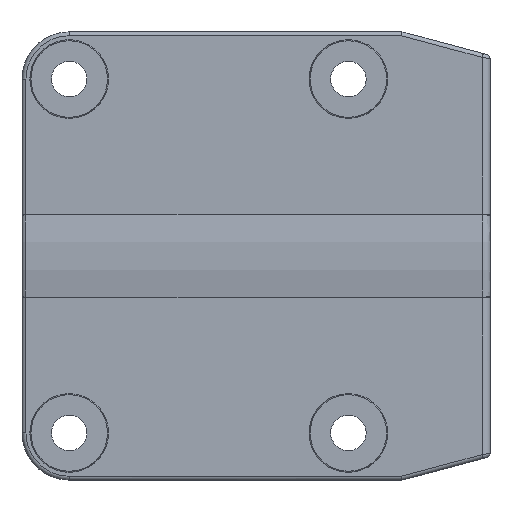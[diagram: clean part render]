
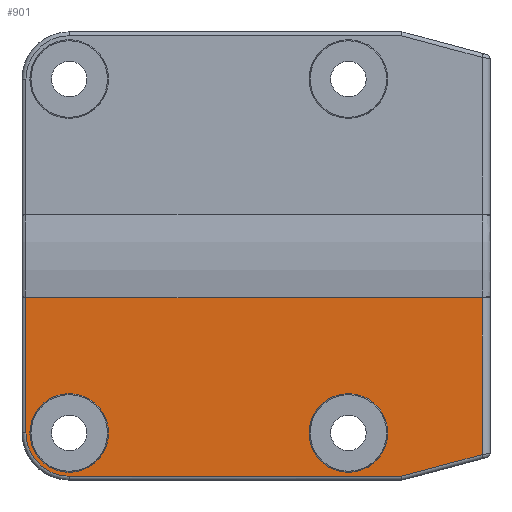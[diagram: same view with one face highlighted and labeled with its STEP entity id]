
A CAD part, front view. The second image highlights one B-rep face of the part: STEP entity #901.
In plain terms, the highlighted planar face has unit normal (0, -1, 0).
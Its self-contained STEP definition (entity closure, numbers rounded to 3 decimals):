
#871 = VERTEX_POINT ( 'NONE', #3205 ) ;
#875 = VERTEX_POINT ( 'NONE', #1687 ) ;
#884 = VERTEX_POINT ( 'NONE', #1636 ) ;
#887 = VERTEX_POINT ( 'NONE', #1716 ) ;
#888 = ORIENTED_EDGE ( 'NONE', *, *, #889, .T. ) ;
#889 = EDGE_CURVE ( 'NONE', #906, #875, #1666, .T. ) ;
#890 = ORIENTED_EDGE ( 'NONE', *, *, #934, .F. ) ;
#894 = VERTEX_POINT ( 'NONE', #1690 ) ;
#896 = ORIENTED_EDGE ( 'NONE', *, *, #975, .T. ) ;
#901 = ADVANCED_FACE ( 'NONE', ( #1480, #1426, #1446 ), #1457, .T. ) ;
#903 = ORIENTED_EDGE ( 'NONE', *, *, #926, .T. ) ;
#906 = VERTEX_POINT ( 'NONE', #1439 ) ;
#909 = ORIENTED_EDGE ( 'NONE', *, *, #931, .F. ) ;
#916 = EDGE_LOOP ( 'NONE', ( #890 ) ) ;
#922 = EDGE_LOOP ( 'NONE', ( #896, #888, #924, #903, #928, #935 ) ) ;
#924 = ORIENTED_EDGE ( 'NONE', *, *, #925, .T. ) ;
#925 = EDGE_CURVE ( 'NONE', #875, #894, #1456, .T. ) ;
#926 = EDGE_CURVE ( 'NONE', #894, #887, #1468, .T. ) ;
#928 = ORIENTED_EDGE ( 'NONE', *, *, #933, .T. ) ;
#930 = EDGE_CURVE ( 'NONE', #884, #871, #1500, .T. ) ;
#931 = EDGE_CURVE ( 'NONE', #2137, #2137, #1490, .T. ) ;
#932 = EDGE_LOOP ( 'NONE', ( #909 ) ) ;
#933 = EDGE_CURVE ( 'NONE', #887, #884, #1483, .T. ) ;
#934 = EDGE_CURVE ( 'NONE', #2268, #2268, #1508, .T. ) ;
#935 = ORIENTED_EDGE ( 'NONE', *, *, #930, .T. ) ;
#975 = EDGE_CURVE ( 'NONE', #871, #906, #1566, .T. ) ;
#1426 = FACE_BOUND ( 'NONE', #932, .T. ) ;
#1431 = DIRECTION ( 'NONE',  ( -1., 0., 0. ) ) ;
#1432 = VECTOR ( 'NONE', #1431, 1000. ) ;
#1439 = CARTESIAN_POINT ( 'NONE',  ( -22.524, 0., -56. ) ) ;
#1442 = CARTESIAN_POINT ( 'NONE',  ( -107., 0., 45. ) ) ;
#1446 = FACE_BOUND ( 'NONE', #916, .T. ) ;
#1453 = VECTOR ( 'NONE', #1477, 1000. ) ;
#1454 = CARTESIAN_POINT ( 'NONE',  ( -2., 0., -10.536 ) ) ;
#1456 = LINE ( 'NONE', #1454, #1453 ) ;
#1457 = PLANE ( 'NONE',  #1463 ) ;
#1459 = DIRECTION ( 'NONE',  ( 0., 0., -1. ) ) ;
#1462 = DIRECTION ( 'NONE',  ( 0., -1., 0. ) ) ;
#1463 = AXIS2_PLACEMENT_3D ( 'NONE', #1442, #1462, #1459 ) ;
#1468 = LINE ( 'NONE', #1476, #1432 ) ;
#1476 = CARTESIAN_POINT ( 'NONE',  ( -119., 0., -10.63 ) ) ;
#1477 = DIRECTION ( 'NONE',  ( 0., 0., 1. ) ) ;
#1480 = FACE_OUTER_BOUND ( 'NONE', #922, .T. ) ;
#1481 = DIRECTION ( 'NONE',  ( 0., 0., -1. ) ) ;
#1482 = AXIS2_PLACEMENT_3D ( 'NONE', #1510, #1493, #1512 ) ;
#1483 = LINE ( 'NONE', #1496, #1488 ) ;
#1484 = DIRECTION ( 'NONE',  ( 0., -1., 0. ) ) ;
#1486 = DIRECTION ( 'NONE',  ( 0., 0., -1. ) ) ;
#1488 = VECTOR ( 'NONE', #1486, 1000. ) ;
#1489 = DIRECTION ( 'NONE',  ( 0., -1., 0. ) ) ;
#1490 = CIRCLE ( 'NONE', #1509, 10. ) ;
#1493 = DIRECTION ( 'NONE',  ( 0., -1., 0. ) ) ;
#1496 = CARTESIAN_POINT ( 'NONE',  ( -118., 0., -45. ) ) ;
#1499 = AXIS2_PLACEMENT_3D ( 'NONE', #1522, #1489, #1481 ) ;
#1500 = CIRCLE ( 'NONE', #1499, 11. ) ;
#1501 = DIRECTION ( 'NONE',  ( 0., 0., -1. ) ) ;
#1508 = CIRCLE ( 'NONE', #1482, 10. ) ;
#1509 = AXIS2_PLACEMENT_3D ( 'NONE', #1515, #1484, #1501 ) ;
#1510 = CARTESIAN_POINT ( 'NONE',  ( -107., 0., -45. ) ) ;
#1512 = DIRECTION ( 'NONE',  ( 0., 0., -1. ) ) ;
#1515 = CARTESIAN_POINT ( 'NONE',  ( -36., 0., -45. ) ) ;
#1522 = CARTESIAN_POINT ( 'NONE',  ( -107., 0., -45. ) ) ;
#1562 = CARTESIAN_POINT ( 'NONE',  ( -22.392, 0., -56. ) ) ;
#1566 = LINE ( 'NONE', #1562, #1573 ) ;
#1573 = VECTOR ( 'NONE', #1575, 1000. ) ;
#1575 = DIRECTION ( 'NONE',  ( 1., 0., 0. ) ) ;
#1636 = CARTESIAN_POINT ( 'NONE',  ( -118., 0., -45. ) ) ;
#1662 = DIRECTION ( 'NONE',  ( 0.966, 0., 0.259 ) ) ;
#1663 = VECTOR ( 'NONE', #1662, 1000. ) ;
#1666 = LINE ( 'NONE', #1698, #1663 ) ;
#1687 = CARTESIAN_POINT ( 'NONE',  ( -2., 0., -50.501 ) ) ;
#1690 = CARTESIAN_POINT ( 'NONE',  ( -2., 0., -10.63 ) ) ;
#1698 = CARTESIAN_POINT ( 'NONE',  ( -2.259, 0., -50.57 ) ) ;
#1716 = CARTESIAN_POINT ( 'NONE',  ( -118., 0., -10.63 ) ) ;
#2137 = VERTEX_POINT ( 'NONE', #2144 ) ;
#2144 = CARTESIAN_POINT ( 'NONE',  ( -36., 0., -55. ) ) ;
#2267 = CARTESIAN_POINT ( 'NONE',  ( -107., 0., -55. ) ) ;
#2268 = VERTEX_POINT ( 'NONE', #2267 ) ;
#3205 = CARTESIAN_POINT ( 'NONE',  ( -107., 0., -56. ) ) ;
